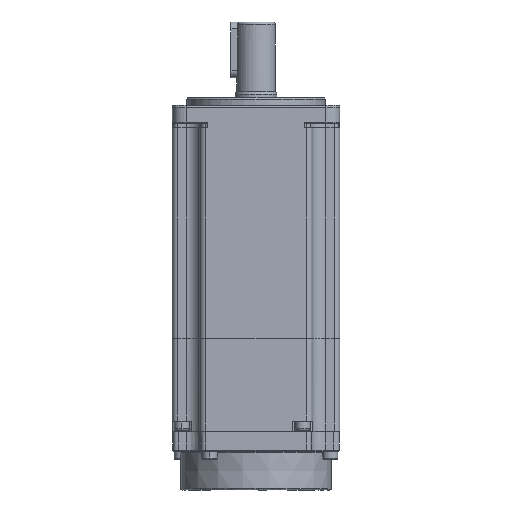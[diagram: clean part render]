
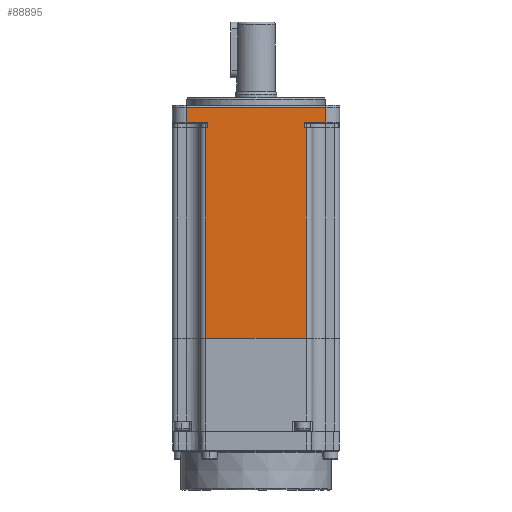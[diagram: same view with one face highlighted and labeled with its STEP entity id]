
A CAD part, front view. The second image highlights one B-rep face of the part: STEP entity #88895.
In plain terms, the highlighted planar face has unit normal (0, -1, 0).
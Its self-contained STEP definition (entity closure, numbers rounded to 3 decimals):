
#1937 = EDGE_CURVE ( 'NONE', #42834, #90450, #94415, .T. ) ;
#3345 = FACE_OUTER_BOUND ( 'NONE', #36101, .T. ) ;
#4980 = ORIENTED_EDGE ( 'NONE', *, *, #70123, .T. ) ;
#5043 = VERTEX_POINT ( 'NONE', #69484 ) ;
#6161 = LINE ( 'NONE', #93438, #26038 ) ;
#6594 = CARTESIAN_POINT ( 'NONE',  ( -18.584, -39.646, 17.9 ) ) ;
#10022 = LINE ( 'NONE', #90319, #62533 ) ;
#10275 = DIRECTION ( 'NONE',  ( -1., 0., 0. ) ) ;
#11172 = ORIENTED_EDGE ( 'NONE', *, *, #65711, .T. ) ;
#11962 = ORIENTED_EDGE ( 'NONE', *, *, #90018, .T. ) ;
#12702 = EDGE_CURVE ( 'NONE', #91440, #67948, #16942, .T. ) ;
#16942 = LINE ( 'NONE', #51728, #91622 ) ;
#17266 = DIRECTION ( 'NONE',  ( 0., 0., 1. ) ) ;
#17452 = CARTESIAN_POINT ( 'NONE',  ( 17.016, -39.646, 93.7 ) ) ;
#17696 = CARTESIAN_POINT ( 'NONE',  ( 24.616, -39.646, 102.1 ) ) ;
#18844 = VERTEX_POINT ( 'NONE', #81320 ) ;
#19184 = CARTESIAN_POINT ( 'NONE',  ( 24.616, -39.646, 95.7 ) ) ;
#19844 = CARTESIAN_POINT ( 'NONE',  ( -17.984, -39.646, 95.7 ) ) ;
#21335 = VECTOR ( 'NONE', #96323, 1000. ) ;
#22052 = EDGE_CURVE ( 'NONE', #90450, #77263, #43482, .T. ) ;
#22155 = DIRECTION ( 'NONE',  ( 0., 0., 1. ) ) ;
#23332 = CARTESIAN_POINT ( 'NONE',  ( -30.584, -39.646, 93.7 ) ) ;
#24283 = CARTESIAN_POINT ( 'NONE',  ( 17.616, -39.646, 102.1 ) ) ;
#24855 = ORIENTED_EDGE ( 'NONE', *, *, #44848, .T. ) ;
#26038 = VECTOR ( 'NONE', #41275, 1000. ) ;
#26919 = LINE ( 'NONE', #46675, #49038 ) ;
#27215 = VECTOR ( 'NONE', #68943, 1000. ) ;
#28546 = ORIENTED_EDGE ( 'NONE', *, *, #72413, .T. ) ;
#29222 = CARTESIAN_POINT ( 'NONE',  ( -30.584, -39.646, 101.1 ) ) ;
#29597 = CARTESIAN_POINT ( 'NONE',  ( -18.584, -39.646, 102.1 ) ) ;
#32405 = EDGE_CURVE ( 'NONE', #5043, #40969, #68547, .T. ) ;
#32835 = EDGE_CURVE ( 'NONE', #37518, #40969, #66122, .T. ) ;
#34940 = VECTOR ( 'NONE', #17266, 1000. ) ;
#35003 = ORIENTED_EDGE ( 'NONE', *, *, #22052, .T. ) ;
#36101 = EDGE_LOOP ( 'NONE', ( #47268, #11172, #24855, #47713, #61036, #48387, #35003, #67581, #11962, #28546, #4980, #70051 ) ) ;
#36885 = CARTESIAN_POINT ( 'NONE',  ( -17.984, -39.646, 95.7 ) ) ;
#37083 = DIRECTION ( 'NONE',  ( 0., 0., -1. ) ) ;
#37518 = VERTEX_POINT ( 'NONE', #71927 ) ;
#38100 = CARTESIAN_POINT ( 'NONE',  ( 17.016, -39.646, 95.7 ) ) ;
#40969 = VERTEX_POINT ( 'NONE', #6594 ) ;
#41189 = EDGE_CURVE ( 'NONE', #77263, #48735, #26919, .T. ) ;
#41275 = DIRECTION ( 'NONE',  ( 0., 0., -1. ) ) ;
#42834 = VERTEX_POINT ( 'NONE', #59603 ) ;
#43482 = LINE ( 'NONE', #29222, #21335 ) ;
#44736 = VERTEX_POINT ( 'NONE', #36885 ) ;
#44848 = EDGE_CURVE ( 'NONE', #18844, #91440, #10022, .T. ) ;
#46675 = CARTESIAN_POINT ( 'NONE',  ( -25.584, -39.646, 102.1 ) ) ;
#47268 = ORIENTED_EDGE ( 'NONE', *, *, #32835, .F. ) ;
#47433 = CARTESIAN_POINT ( 'NONE',  ( -30.584, -39.646, 102.1 ) ) ;
#47713 = ORIENTED_EDGE ( 'NONE', *, *, #12702, .T. ) ;
#48387 = ORIENTED_EDGE ( 'NONE', *, *, #1937, .T. ) ;
#48735 = VERTEX_POINT ( 'NONE', #92702 ) ;
#49038 = VECTOR ( 'NONE', #91362, 1000. ) ;
#50647 = DIRECTION ( 'NONE',  ( -1., 0., 0. ) ) ;
#51728 = CARTESIAN_POINT ( 'NONE',  ( 17.016, -39.646, 102.1 ) ) ;
#53075 = CARTESIAN_POINT ( 'NONE',  ( -17.984, -39.646, 93.7 ) ) ;
#56324 = DIRECTION ( 'NONE',  ( 1., 0., 0. ) ) ;
#57920 = VECTOR ( 'NONE', #82932, 1000. ) ;
#59603 = CARTESIAN_POINT ( 'NONE',  ( 24.616, -39.646, 95.7 ) ) ;
#61036 = ORIENTED_EDGE ( 'NONE', *, *, #91015, .T. ) ;
#61489 = VECTOR ( 'NONE', #37083, 1000. ) ;
#62533 = VECTOR ( 'NONE', #68154, 1000. ) ;
#64485 = DIRECTION ( 'NONE',  ( 1., 0., 0. ) ) ;
#65711 = EDGE_CURVE ( 'NONE', #37518, #18844, #84296, .T. ) ;
#66122 = LINE ( 'NONE', #95341, #85880 ) ;
#67581 = ORIENTED_EDGE ( 'NONE', *, *, #41189, .T. ) ;
#67948 = VERTEX_POINT ( 'NONE', #38100 ) ;
#68154 = DIRECTION ( 'NONE',  ( -1., 0., 0. ) ) ;
#68547 = LINE ( 'NONE', #29597, #61489 ) ;
#68943 = DIRECTION ( 'NONE',  ( 0., 0., 1. ) ) ;
#69484 = CARTESIAN_POINT ( 'NONE',  ( -18.584, -39.646, 93.7 ) ) ;
#69678 = PLANE ( 'NONE',  #72523 ) ;
#70051 = ORIENTED_EDGE ( 'NONE', *, *, #32405, .T. ) ;
#70123 = EDGE_CURVE ( 'NONE', #78444, #5043, #77768, .T. ) ;
#71927 = CARTESIAN_POINT ( 'NONE',  ( 17.616, -39.646, 17.9 ) ) ;
#72413 = EDGE_CURVE ( 'NONE', #44736, #78444, #6161, .T. ) ;
#72523 = AXIS2_PLACEMENT_3D ( 'NONE', #47433, #84273, #10275 ) ;
#75338 = VECTOR ( 'NONE', #56324, 1000. ) ;
#75535 = VECTOR ( 'NONE', #64485, 1000. ) ;
#77263 = VERTEX_POINT ( 'NONE', #78525 ) ;
#77665 = LINE ( 'NONE', #19184, #75338 ) ;
#77768 = LINE ( 'NONE', #23332, #57920 ) ;
#78444 = VERTEX_POINT ( 'NONE', #53075 ) ;
#78525 = CARTESIAN_POINT ( 'NONE',  ( -25.584, -39.646, 101.1 ) ) ;
#81320 = CARTESIAN_POINT ( 'NONE',  ( 17.616, -39.646, 93.7 ) ) ;
#82932 = DIRECTION ( 'NONE',  ( -1., 0., 0. ) ) ;
#84273 = DIRECTION ( 'NONE',  ( 0., 1., 0. ) ) ;
#84296 = LINE ( 'NONE', #24283, #27215 ) ;
#85880 = VECTOR ( 'NONE', #50647, 1000. ) ;
#88895 = ADVANCED_FACE ( 'NONE', ( #3345 ), #69678, .F. ) ;
#90018 = EDGE_CURVE ( 'NONE', #48735, #44736, #93019, .T. ) ;
#90319 = CARTESIAN_POINT ( 'NONE',  ( -30.584, -39.646, 93.7 ) ) ;
#90450 = VERTEX_POINT ( 'NONE', #92756 ) ;
#91015 = EDGE_CURVE ( 'NONE', #67948, #42834, #77665, .T. ) ;
#91362 = DIRECTION ( 'NONE',  ( 0., 0., -1. ) ) ;
#91440 = VERTEX_POINT ( 'NONE', #17452 ) ;
#91622 = VECTOR ( 'NONE', #22155, 1000. ) ;
#92702 = CARTESIAN_POINT ( 'NONE',  ( -25.584, -39.646, 95.7 ) ) ;
#92756 = CARTESIAN_POINT ( 'NONE',  ( 24.616, -39.646, 101.1 ) ) ;
#93019 = LINE ( 'NONE', #19844, #75535 ) ;
#93438 = CARTESIAN_POINT ( 'NONE',  ( -17.984, -39.646, 102.1 ) ) ;
#94415 = LINE ( 'NONE', #17696, #34940 ) ;
#95341 = CARTESIAN_POINT ( 'NONE',  ( -30.584, -39.646, 17.9 ) ) ;
#96323 = DIRECTION ( 'NONE',  ( -1., 0., 0. ) ) ;
